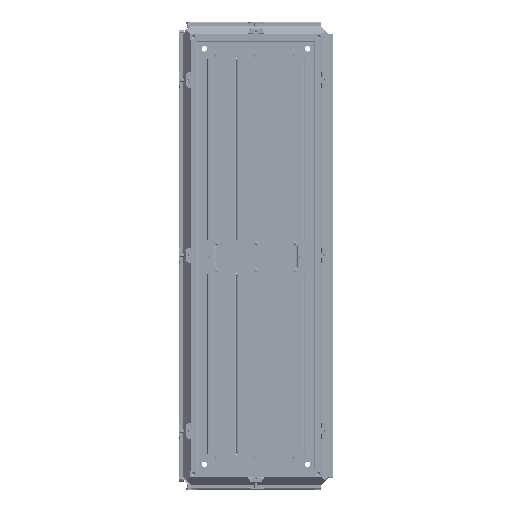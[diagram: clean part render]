
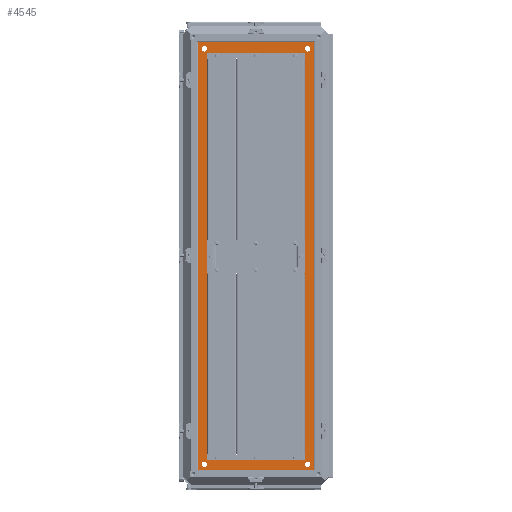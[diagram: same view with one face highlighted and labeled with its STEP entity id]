
A CAD part, top view. The second image highlights one B-rep face of the part: STEP entity #4545.
In plain terms, the highlighted planar face has unit normal (0, 0, 1).
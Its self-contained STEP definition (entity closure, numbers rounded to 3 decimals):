
#4545=ADVANCED_FACE('',(#17487,#17489,#17491,#17493,#17495,#17497),#17499,.F.);
#17487=FACE_BOUND('',#17488,.T.);
#17488=EDGE_LOOP('',(#117187,#117188,#117189,#117190));
#17489=FACE_BOUND('',#17490,.T.);
#17490=EDGE_LOOP('',(#117191,#117192,#117193,#117194));
#17491=FACE_BOUND('',#17492,.T.);
#17492=EDGE_LOOP('',(#117195));
#17493=FACE_BOUND('',#17494,.T.);
#17494=EDGE_LOOP('',(#117196));
#17495=FACE_BOUND('',#17496,.T.);
#17496=EDGE_LOOP('',(#117197));
#17497=FACE_BOUND('',#17498,.T.);
#17498=EDGE_LOOP('',(#117198));
#17499=PLANE('',#17500);
#17500=AXIS2_PLACEMENT_3D('',#17501,#17502,#17503);
#17501=CARTESIAN_POINT('',(0.,0.,-47.5));
#17502=DIRECTION('',(0.,0.,-1.));
#17503=DIRECTION('',(0.,1.,0.));
#117187=ORIENTED_EDGE('',*,*,#177305,.F.);
#117188=ORIENTED_EDGE('',*,*,#177306,.F.);
#117189=ORIENTED_EDGE('',*,*,#177307,.T.);
#117190=ORIENTED_EDGE('',*,*,#177308,.T.);
#117191=ORIENTED_EDGE('',*,*,#177309,.T.);
#117192=ORIENTED_EDGE('',*,*,#177310,.F.);
#117193=ORIENTED_EDGE('',*,*,#177311,.F.);
#117194=ORIENTED_EDGE('',*,*,#177312,.F.);
#117195=ORIENTED_EDGE('',*,*,#177313,.T.);
#117196=ORIENTED_EDGE('',*,*,#177314,.F.);
#117197=ORIENTED_EDGE('',*,*,#177315,.F.);
#117198=ORIENTED_EDGE('',*,*,#177316,.T.);
#177305=EDGE_CURVE('',#208296,#208297,#208298,.F.);
#177306=EDGE_CURVE('',#208299,#208296,#208300,.F.);
#177307=EDGE_CURVE('',#208299,#208301,#208302,.F.);
#177308=EDGE_CURVE('',#208301,#208297,#208303,.F.);
#177309=EDGE_CURVE('',#208304,#208305,#208306,.F.);
#177310=EDGE_CURVE('',#208307,#208305,#208308,.F.);
#177311=EDGE_CURVE('',#208309,#208307,#208310,.F.);
#177312=EDGE_CURVE('',#208304,#208309,#208311,.F.);
#177313=EDGE_CURVE('',#208312,#208312,#208313,.T.);
#177314=EDGE_CURVE('',#208314,#208314,#208315,.T.);
#177315=EDGE_CURVE('',#208316,#208316,#208317,.T.);
#177316=EDGE_CURVE('',#208318,#208318,#208319,.T.);
#208296=VERTEX_POINT('',#262293);
#208297=VERTEX_POINT('',#262294);
#208298=LINE('',#262295,#262296);
#208299=VERTEX_POINT('',#262298);
#208300=LINE('',#262299,#262300);
#208301=VERTEX_POINT('',#262302);
#208302=LINE('',#262303,#262304);
#208303=LINE('',#262306,#262307);
#208304=VERTEX_POINT('',#262309);
#208305=VERTEX_POINT('',#262310);
#208306=LINE('',#262311,#262312);
#208307=VERTEX_POINT('',#262314);
#208308=LINE('',#262315,#262316);
#208309=VERTEX_POINT('',#262318);
#208310=LINE('',#262319,#262320);
#208311=LINE('',#262322,#262323);
#208312=VERTEX_POINT('',#262325);
#208313=CIRCLE('',#262326,7.);
#208314=VERTEX_POINT('',#262330);
#208315=CIRCLE('',#262331,7.);
#208316=VERTEX_POINT('',#262335);
#208317=CIRCLE('',#262336,7.);
#208318=VERTEX_POINT('',#262340);
#208319=CIRCLE('',#262341,7.);
#262293=CARTESIAN_POINT('',(-1.6,1.6,-47.5));
#262294=CARTESIAN_POINT('',(-300.4,1.6,-47.5));
#262295=CARTESIAN_POINT('',(-300.4,1.6,-47.5));
#262296=VECTOR('',#262297,1.);
#262297=DIRECTION('',(1.,0.,0.));
#262298=CARTESIAN_POINT('',(-1.6,1100.4,-47.5));
#262299=CARTESIAN_POINT('',(-1.6,1.6,-47.5));
#262300=VECTOR('',#262301,1.);
#262301=DIRECTION('',(0.,1.,0.));
#262302=CARTESIAN_POINT('',(-300.4,1100.4,-47.5));
#262303=CARTESIAN_POINT('',(-300.4,1100.4,-47.5));
#262304=VECTOR('',#262305,1.);
#262305=DIRECTION('',(1.,0.,0.));
#262306=CARTESIAN_POINT('',(-300.4,1.6,-47.5));
#262307=VECTOR('',#262308,1.);
#262308=DIRECTION('',(0.,1.,0.));
#262309=CARTESIAN_POINT('',(-39.4,39.4,-47.5));
#262310=CARTESIAN_POINT('',(-262.6,39.4,-47.5));
#262311=CARTESIAN_POINT('',(-262.6,39.4,-47.5));
#262312=VECTOR('',#262313,1.);
#262313=DIRECTION('',(1.,0.,0.));
#262314=CARTESIAN_POINT('',(-262.6,1062.6,-47.5));
#262315=CARTESIAN_POINT('',(-262.6,39.4,-47.5));
#262316=VECTOR('',#262317,1.);
#262317=DIRECTION('',(0.,1.,0.));
#262318=CARTESIAN_POINT('',(-39.4,1062.6,-47.5));
#262319=CARTESIAN_POINT('',(-262.6,1062.6,-47.5));
#262320=VECTOR('',#262321,1.);
#262321=DIRECTION('',(1.,0.,0.));
#262322=CARTESIAN_POINT('',(-39.4,1062.6,-47.5));
#262323=VECTOR('',#262324,1.);
#262324=DIRECTION('',(0.,-1.,0.));
#262325=CARTESIAN_POINT('',(-18.5,25.5,-47.5));
#262326=AXIS2_PLACEMENT_3D('',#262327,#262328,#262329);
#262327=CARTESIAN_POINT('',(-18.5,18.5,-47.5));
#262328=DIRECTION('',(0.,0.,-1.));
#262329=DIRECTION('',(0.,1.,0.));
#262330=CARTESIAN_POINT('',(-283.5,25.5,-47.5));
#262331=AXIS2_PLACEMENT_3D('',#262332,#262333,#262334);
#262332=CARTESIAN_POINT('',(-283.5,18.5,-47.5));
#262333=DIRECTION('',(0.,0.,1.));
#262334=DIRECTION('',(0.,1.,0.));
#262335=CARTESIAN_POINT('',(-18.5,1076.5,-47.5));
#262336=AXIS2_PLACEMENT_3D('',#262337,#262338,#262339);
#262337=CARTESIAN_POINT('',(-18.5,1083.5,-47.5));
#262338=DIRECTION('',(0.,0.,1.));
#262339=DIRECTION('',(0.,-1.,0.));
#262340=CARTESIAN_POINT('',(-283.5,1076.5,-47.5));
#262341=AXIS2_PLACEMENT_3D('',#262342,#262343,#262344);
#262342=CARTESIAN_POINT('',(-283.5,1083.5,-47.5));
#262343=DIRECTION('',(0.,0.,-1.));
#262344=DIRECTION('',(0.,-1.,0.));
